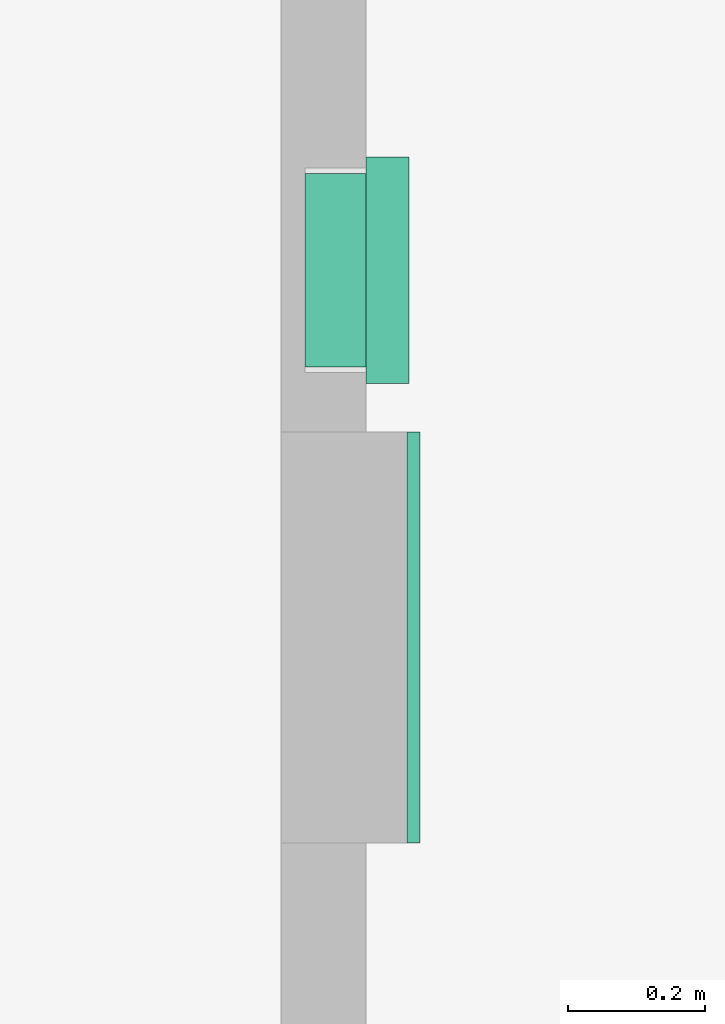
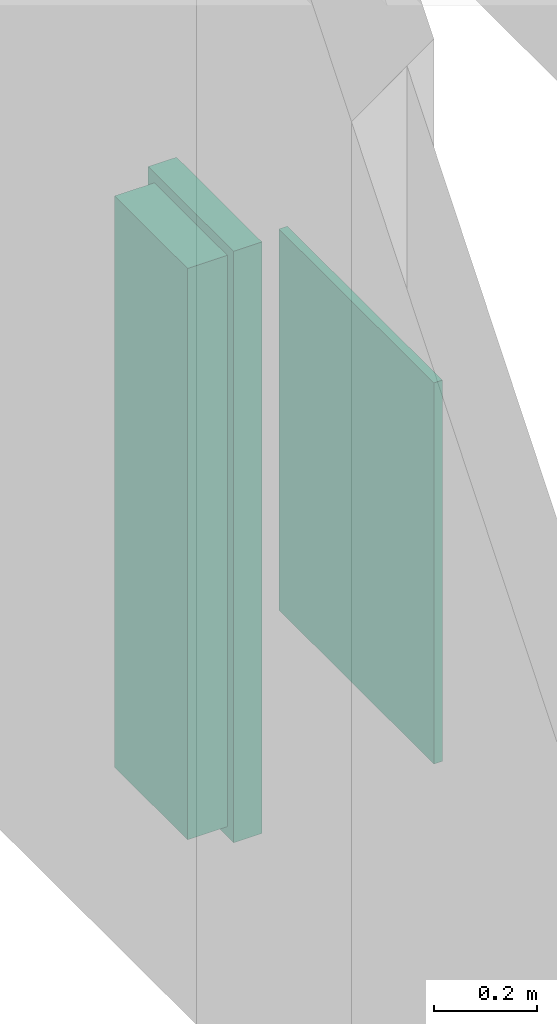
# One storey, part 32 of 45: 2 flow terminals.
"""IFC2X3 building model written with IfcOpenShell, lengths in metres."""

from ifc_helpers import new_model, entity, si_unit, converted_unit, frame, origin, origin_2d_with_axis, place, context, project, spatial, rectangle, extrude, face_set, surface_model, source, transform, mapped, type_object, type_shapes, element, save


model = new_model("IFC2X3")

# Units and contexts
model_context = context("Model", 3, precision=1e-09, world=origin())
plan_context = context("Plan", 3, precision=1e-09, world=origin())
ifc_project = project(units=[si_unit("LENGTHUNIT", "METRE"), si_unit("AREAUNIT", "SQUARE_METRE"), si_unit("VOLUMEUNIT", "CUBIC_METRE"), converted_unit("PLANEANGLEUNIT", "DEGREE", entity("IfcRatioMeasure", 0.01745329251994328), si_unit("PLANEANGLEUNIT", "RADIAN"), dimensions=[0, 0, 0, 0, 0, 0, 0]), si_unit("TIMEUNIT", "SECOND")], contexts=[model_context, plan_context])

# Site, building, storey, space
site_placement = place(None, origin())
site = spatial("IfcSite", under=ifc_project, at=site_placement, Name="Default", CompositionType="ELEMENT")
building_placement = place(site_placement, origin())
building = spatial("IfcBuilding", under=site, at=building_placement, CompositionType="ELEMENT")
storey_placement = place(building_placement, frame((0.0, 0.0, 4.570000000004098)))
storey = spatial("IfcBuildingStorey", under=building, at=storey_placement, Name="Second Floor", CompositionType="ELEMENT", Elevation=4.570000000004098)
space_placement = place(storey_placement, origin())
space = spatial("IfcSpace", under=storey, at=space_placement, Name="2C08", CompositionType="ELEMENT", InteriorOrExteriorSpace="INTERNAL")

# Flow terminals
sanitary_terminal_type_1 = type_object("IfcSanitaryTerminalType", Name="Semi-Recessed", PredefinedType="NOTDEFINED")
shared_shape_1 = source(origin(), model_context, "Body", "SurfaceModel", [
    surface_model("IfcFaceBasedSurfaceModel", [(0.3047999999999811, 1.371600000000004, 0.006350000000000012), (0.02539999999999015, 1.371600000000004, 0.006350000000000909), (0.02539999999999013, 0.02540000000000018, 0.006350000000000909), (0.3047999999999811, 0.02540000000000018, 0.006350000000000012), (0.3047999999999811, 1.371600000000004, 0.0), (0.02539999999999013, 1.371600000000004, 0.0), (0.02539999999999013, 0.02540000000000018, 0.0), (0.3047999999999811, 0.02540000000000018, 0.0), (0.3047999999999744, 0.8683625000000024, 0.0314087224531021), (0.304799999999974, 0.8683625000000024, 0.0), (0.304799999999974, 1.371600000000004, 0.0), (0.3047999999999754, 1.371600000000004, 0.1396999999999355), (0.3047999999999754, 0.9274310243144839, 0.139699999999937), (0.3047999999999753, 0.9028355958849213, 0.1191121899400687), (0.304799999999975, 0.8840898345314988, 0.09308548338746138), (0.3047999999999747, 0.8723562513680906, 0.06323391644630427), (0.02539999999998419, 0.8683625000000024, 0.03140872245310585), (0.02539999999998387, 0.8683625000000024, 0.0), (0.02539999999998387, 1.371600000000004, 0.0), (0.02539999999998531, 1.371600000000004, 0.1396999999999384), (0.02539999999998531, 0.9274310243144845, 0.1396999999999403), (0.02539999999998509, 0.9028355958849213, 0.1191121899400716), (0.02539999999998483, 0.8840898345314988, 0.09308548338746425), (0.02539999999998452, 0.8723562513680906, 0.06323391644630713), (0.1650999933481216, 0.8971245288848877, 0.1125374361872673), (0.244423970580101, 0.8850007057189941, 0.0947267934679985), (0.3048000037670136, 0.8934627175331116, 0.1060988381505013), (0.225727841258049, 0.8897196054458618, 0.1024402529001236), (0.1240624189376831, 0.8936511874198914, 0.1080563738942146), (0.1443802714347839, 0.89626145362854, 0.1114614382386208), (0.02539999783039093, 0.8934627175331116, 0.1060988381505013), (0.2975995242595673, 0.8728225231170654, 0.06500939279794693), (0.2961554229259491, 0.8724397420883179, 0.06352298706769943), (0.08576729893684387, 0.8849983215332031, 0.09472260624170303), (0.05923719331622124, 0.8781034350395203, 0.0805450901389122), (0.06810294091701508, 0.8800443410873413, 0.08500713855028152), (0.02539999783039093, 0.8811564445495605, 0.08562259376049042), (0.03954862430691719, 0.8766331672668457, 0.07681932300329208), (0.04958875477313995, 0.8769928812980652, 0.07776296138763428), (0.02539999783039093, 0.8782230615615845, 0.07815969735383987), (0.03264534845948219, 0.875198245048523, 0.07281118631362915), (0.02539999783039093, 0.8767563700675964, 0.0744282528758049), (0.02539999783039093, 0.87602299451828, 0.07256253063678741), (0.2946777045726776, 0.8762261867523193, 0.07572414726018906), (0.3048000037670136, 0.8767563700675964, 0.0744282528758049), (0.3048000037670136, 0.8774896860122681, 0.07629397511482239), (0.2906513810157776, 0.8717893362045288, 0.0609215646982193), (0.3048000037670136, 0.871357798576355, 0.05527761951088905), (0.3048000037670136, 0.8718570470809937, 0.05925576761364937), (0.02539999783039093, 0.874556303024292, 0.06883108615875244), (0.03170676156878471, 0.8735430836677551, 0.0675705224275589), (0.03171554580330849, 0.8739543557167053, 0.06892137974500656), (0.104461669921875, 0.889717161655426, 0.1024366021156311), (0.02539999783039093, 0.8752896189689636, 0.07069680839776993), (0.03172433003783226, 0.8743656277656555, 0.07027223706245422), (0.03218483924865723, 0.8747819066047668, 0.07154171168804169), (0.185808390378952, 0.8962624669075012, 0.1114626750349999), (0.3048000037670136, 0.8703593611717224, 0.04732131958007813), (0.2280749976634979, 0.8709259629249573, 0.05697767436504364), (0.2061262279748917, 0.8936530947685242, 0.1080589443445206), (0.3048000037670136, 0.8752896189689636, 0.07069680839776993), (0.297547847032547, 0.8752022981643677, 0.07282306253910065), (0.2980738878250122, 0.8745774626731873, 0.0708826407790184), (0.2985999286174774, 0.8739525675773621, 0.06894221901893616), (0.3048000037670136, 0.874556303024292, 0.06883108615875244), (0.2709419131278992, 0.8781068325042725, 0.08055329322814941), (0.3048000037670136, 0.8811564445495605, 0.08562259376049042), (0.2620970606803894, 0.8800443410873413, 0.08500713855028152), (0.2805894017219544, 0.8769944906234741, 0.07776710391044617), (0.3048000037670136, 0.8782230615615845, 0.07815969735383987), (0.03435983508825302, 0.8722586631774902, 0.06284872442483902), (0.02539999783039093, 0.872106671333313, 0.06124484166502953), (0.0367727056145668, 0.8719081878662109, 0.06142202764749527), (0.2906513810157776, 0.8766331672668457, 0.07681932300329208), (0.02539999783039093, 0.8718570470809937, 0.05925576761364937), (0.3048000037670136, 0.8738229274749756, 0.06696536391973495), (0.2980997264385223, 0.8733875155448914, 0.06697580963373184), (0.3048000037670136, 0.872106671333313, 0.06124484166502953), (0.2947112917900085, 0.8720570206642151, 0.06203658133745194), (0.02539999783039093, 0.8738229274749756, 0.06696536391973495), (0.3048000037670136, 0.873089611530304, 0.06509964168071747), (0.02539999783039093, 0.8774896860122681, 0.07629397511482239), (0.03438528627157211, 0.8759323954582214, 0.07491400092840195), (0.03677724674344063, 0.8764464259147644, 0.07632055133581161), (0.03261014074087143, 0.8728178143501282, 0.0649920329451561), (0.02539999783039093, 0.8703593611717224, 0.04732131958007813), (0.1650999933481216, 0.8683624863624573, 0.03140872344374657), (0.03954862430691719, 0.8717893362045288, 0.0609215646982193), (0.1021250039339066, 0.8709259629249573, 0.05697767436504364), (0.02539999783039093, 0.871357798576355, 0.05527761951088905), (0.02539999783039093, 0.873089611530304, 0.06509964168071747), (0.2961127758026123, 0.8757142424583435, 0.07427360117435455), (0.3048000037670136, 0.87602299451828, 0.07256253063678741), (0.1650999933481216, 0.8701865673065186, 0.05300865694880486), (0.03954862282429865, 0.9617593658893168, 0.06092156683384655), (0.1650999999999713, 0.9617593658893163, 0.05300865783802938), (0.2906513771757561, 0.9617593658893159, 0.06092156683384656), (0.2927086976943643, 0.9617593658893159, 0.06119241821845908), (0.2946258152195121, 0.9617593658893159, 0.06198651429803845), (0.2962720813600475, 0.9617593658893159, 0.06324973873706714), (0.2975353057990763, 0.9617593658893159, 0.06489600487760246), (0.2983294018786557, 0.9617593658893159, 0.06681312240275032), (0.2986002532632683, 0.9617593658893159, 0.06887044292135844), (0.2983294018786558, 0.9617593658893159, 0.07092776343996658), (0.2975353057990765, 0.9617593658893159, 0.0728448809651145), (0.2962720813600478, 0.9617593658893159, 0.07449114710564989), (0.2946258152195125, 0.9617593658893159, 0.07575437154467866), (0.2927086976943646, 0.9617593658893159, 0.07654846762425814), (0.2906513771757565, 0.9617593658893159, 0.07681931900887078), (0.2806776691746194, 0.9617593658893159, 0.07775040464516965), (0.2710486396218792, 0.9617593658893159, 0.0805114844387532), (0.2620970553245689, 0.9617593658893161, 0.0850071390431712), (0.2316919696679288, 0.9617593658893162, 0.1002429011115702), (0.1989754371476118, 0.9617593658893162, 0.1095287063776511), (0.1651000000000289, 0.9617593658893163, 0.1125374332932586), (0.1312245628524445, 0.9617593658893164, 0.109528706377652), (0.09850803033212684, 0.9617593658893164, 0.1002429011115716), (0.06810294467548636, 0.9617593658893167, 0.08500713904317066), (0.05915136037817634, 0.9617593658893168, 0.08051148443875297), (0.04952233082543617, 0.9617593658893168, 0.07775040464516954), (0.03954862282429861, 0.9617593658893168, 0.07681931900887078), (0.03749130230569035, 0.9617593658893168, 0.0765484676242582), (0.03557418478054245, 0.9617593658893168, 0.07575437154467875), (0.03392791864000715, 0.9617593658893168, 0.07449114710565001), (0.03266469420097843, 0.9617593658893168, 0.07284488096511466), (0.03187059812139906, 0.9617593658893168, 0.07092776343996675), (0.03159974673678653, 0.9617593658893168, 0.06887044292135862), (0.03187059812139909, 0.9617593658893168, 0.06681312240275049), (0.03266469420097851, 0.9617593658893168, 0.0648960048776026), (0.03392791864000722, 0.9617593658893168, 0.06324973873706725), (0.03557418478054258, 0.9617593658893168, 0.06198651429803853), (0.03749130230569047, 0.9617593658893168, 0.06119241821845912), (0.3302000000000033, 1.397000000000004, 0.1523999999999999), (0.0, 1.397000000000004, 0.152400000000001), (0.0, 0.0, 0.152400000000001), (0.3302000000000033, 0.0, 0.1523999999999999), (0.03175000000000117, 0.7016793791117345, 0.1524000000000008), (0.03175000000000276, 0.8960819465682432, 0.1524000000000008), (0.03192255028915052, 0.8975521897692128, 0.1524000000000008), (0.03243082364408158, 0.8989425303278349, 0.1524000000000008), (0.03324719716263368, 0.9001774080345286, 0.1524000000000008), (0.03432730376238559, 0.9011897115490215, 0.1524000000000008), (0.03561244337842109, 0.9019244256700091, 0.1524000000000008), (0.03703277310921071, 0.9023416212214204, 0.1524000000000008), (0.1222300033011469, 0.9119737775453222, 0.1524000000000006), (0.2079699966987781, 0.911973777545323, 0.1524000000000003), (0.2931672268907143, 0.902341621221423, 0.1524), (0.2945875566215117, 0.9019244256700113, 0.1524), (0.2958726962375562, 0.9011897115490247, 0.1524), (0.2969528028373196, 0.9001774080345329, 0.1524), (0.297769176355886, 0.8989425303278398, 0.1524), (0.2982774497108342, 0.8975521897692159, 0.1524), (0.2984500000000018, 0.8960819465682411, 0.1524), (0.2984500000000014, 0.7016793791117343, 0.1524), (0.2982774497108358, 0.7002091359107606, 0.1524), (0.2977691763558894, 0.6988187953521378, 0.1524), (0.2969528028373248, 0.697583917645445, 0.1524), (0.2958726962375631, 0.6965716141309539, 0.1524), (0.29458755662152, 0.6958369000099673, 0.1524), (0.2931672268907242, 0.6954197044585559, 0.1524), (0.2079699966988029, 0.6857875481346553, 0.1524000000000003), (0.1222300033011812, 0.6857875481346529, 0.1524000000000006), (0.03703277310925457, 0.6954197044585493, 0.1524000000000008), (0.03561244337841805, 0.6958369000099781, 0.1524000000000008), (0.0343273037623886, 0.6965716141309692, 0.1524000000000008), (0.03324719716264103, 0.6975839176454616, 0.1524000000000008), (0.03243082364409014, 0.698818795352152, 0.1524000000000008), (0.03192255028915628, 0.7002091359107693, 0.1524000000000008), (0.3063874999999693, 1.373187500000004, 0.0), (0.02381249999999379, 1.373187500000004, 0.0), (0.02381249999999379, 0.02381250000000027, 0.0), (0.3063874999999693, 0.02381250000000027, 0.0), (0.3047999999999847, 1.371600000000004, 0.0), (0.3047999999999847, 0.02540000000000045, 0.0), (0.02539999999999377, 0.02540000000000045, 0.0), (0.02539999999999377, 1.371600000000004, 0.0), (0.304799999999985, 1.371600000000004, 0.08889999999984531), (0.3047999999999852, 1.371600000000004, 0.1396999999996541), (0.3047999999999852, 0.02540000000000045, 0.1396999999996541), (0.304799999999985, 0.02540000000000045, 0.08889999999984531), (0.02539999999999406, 0.02540000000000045, 0.08889999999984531), (0.02539999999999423, 0.02540000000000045, 0.139699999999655), (0.02539999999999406, 1.371600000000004, 0.08889999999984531), (0.02539999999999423, 1.371600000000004, 0.139699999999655), (0.02381249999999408, 1.373187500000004, 0.08889999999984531), (0.3063874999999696, 1.373187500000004, 0.08889999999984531), (0.02381249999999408, 0.02381250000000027, 0.08889999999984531), (0.3063874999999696, 0.02381250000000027, 0.08889999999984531), (0.3302000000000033, 1.397000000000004, 0.08889999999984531), (0.0, 1.397000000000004, 0.08889999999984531), (0.0, 0.0, 0.08889999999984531), (0.3302000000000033, 0.0, 0.08889999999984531), (0.3302000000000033, 1.397000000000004, 0.1396999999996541), (0.0, 1.397000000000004, 0.1396999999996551), (0.0, 0.0, 0.1396999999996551), (0.3302000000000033, 0.0, 0.1396999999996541), (0.0317500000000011, 0.7016793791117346, 0.139699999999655), (0.03175000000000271, 0.8960819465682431, 0.139699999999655), (0.03192255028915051, 0.8975521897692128, 0.139699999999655), (0.03243082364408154, 0.8989425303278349, 0.139699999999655), (0.03324719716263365, 0.9001774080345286, 0.139699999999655), (0.03432730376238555, 0.9011897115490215, 0.139699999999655), (0.03561244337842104, 0.9019244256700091, 0.139699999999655), (0.03703277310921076, 0.9023416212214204, 0.139699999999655), (0.1222300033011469, 0.9119737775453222, 0.1396999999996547), (0.207969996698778, 0.911973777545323, 0.1396999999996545), (0.2931672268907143, 0.902341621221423, 0.1396999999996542), (0.2945875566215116, 0.9019244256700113, 0.1396999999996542), (0.2958726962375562, 0.9011897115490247, 0.1396999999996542), (0.2969528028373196, 0.9001774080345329, 0.1396999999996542), (0.2977691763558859, 0.8989425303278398, 0.1396999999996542), (0.2982774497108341, 0.8975521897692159, 0.1396999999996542), (0.2984500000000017, 0.8960819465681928, 0.1396999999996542), (0.2984500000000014, 0.7016793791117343, 0.1396999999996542), (0.2982774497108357, 0.7002091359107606, 0.1396999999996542), (0.2977691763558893, 0.6988187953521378, 0.1396999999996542), (0.2969528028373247, 0.697583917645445, 0.1396999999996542), (0.295872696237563, 0.6965716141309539, 0.1396999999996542), (0.29458755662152, 0.6958369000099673, 0.1396999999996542), (0.2931672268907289, 0.6954197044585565, 0.1396999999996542), (0.2079699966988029, 0.6857875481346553, 0.1396999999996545), (0.1222300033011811, 0.6857875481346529, 0.1396999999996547), (0.0370327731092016, 0.6954197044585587, 0.139699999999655), (0.03561244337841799, 0.6958369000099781, 0.139699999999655), (0.03432730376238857, 0.6965716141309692, 0.139699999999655), (0.03324719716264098, 0.6975839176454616, 0.139699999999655), (0.03243082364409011, 0.698818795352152, 0.139699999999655), (0.03192255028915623, 0.7002091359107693, 0.139699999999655), (0.02698749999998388, 0.6774923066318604, 0.1206361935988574), (0.02698749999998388, 0.6858000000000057, 0.1206361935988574), (0.02698749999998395, 0.6858000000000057, 0.1397000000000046), (0.02698749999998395, 0.0253999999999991, 0.1397000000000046), (0.02698749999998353, 0.0253999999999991, 0.007937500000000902), (0.02698749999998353, 0.7076898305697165, 0.007937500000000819), (0.3032124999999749, 0.6774923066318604, 0.1206361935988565), (0.3032124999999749, 0.6858000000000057, 0.1206361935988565), (0.3032124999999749, 0.6858000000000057, 0.1397000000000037), (0.3032124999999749, 0.0253999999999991, 0.1397000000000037), (0.3032124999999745, 0.0253999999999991, 0.007937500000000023), (0.3032124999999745, 0.7076898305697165, 0.007937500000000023)], [face_set([[[0, 1, 2, 3]], [[4, 5, 6, 7]], [[1, 0, 4, 5]], [[2, 6, 5, 1]], [[3, 7, 6, 2]], [[0, 3, 7, 4]]]), face_set([[[8, 9, 10, 11, 12, 13, 14, 15]], [[16, 17, 18, 19, 20, 21, 22, 23]], [[9, 8, 16, 17]], [[10, 18, 17, 9]], [[11, 19, 18, 10]], [[12, 11, 19, 20]], [[24, 20, 21]], [[25, 26, 27]], [[28, 29, 21]], [[28, 21, 30]], [[15, 31, 32]], [[22, 33, 30]], [[24, 21, 29]], [[34, 35, 36]], [[37, 38, 39]], [[40, 41, 42]], [[39, 38, 34]], [[22, 35, 33]], [[39, 34, 36]], [[43, 44, 45]], [[46, 47, 48]], [[49, 50, 51]], [[33, 52, 30]], [[53, 54, 55]], [[24, 56, 13]], [[57, 47, 58]], [[24, 13, 12]], [[13, 56, 59]], [[59, 27, 26]], [[60, 61, 62]], [[62, 63, 64]], [[24, 12, 20]], [[55, 42, 53]], [[65, 66, 67]], [[25, 67, 14]], [[25, 14, 26]], [[65, 68, 69]], [[66, 65, 69]], [[70, 71, 72]], [[69, 68, 73]], [[72, 71, 74]], [[26, 13, 59]], [[54, 53, 49]], [[64, 60, 62]], [[75, 63, 76]], [[46, 77, 78]], [[79, 50, 49]], [[80, 76, 31]], [[39, 81, 37]], [[41, 82, 81]], [[49, 51, 54]], [[81, 82, 83]], [[40, 82, 41]], [[70, 84, 23]], [[84, 50, 79]], [[85, 16, 86]], [[28, 30, 52]], [[70, 23, 71]], [[87, 72, 74]], [[85, 88, 89]], [[87, 89, 88]], [[74, 89, 87]], [[84, 90, 23]], [[58, 47, 46]], [[35, 22, 36]], [[63, 75, 64]], [[91, 61, 92]], [[45, 73, 43]], [[80, 75, 76]], [[61, 60, 92]], [[15, 32, 78]], [[45, 69, 73]], [[92, 44, 91]], [[66, 14, 67]], [[84, 79, 90]], [[85, 93, 88]], [[86, 57, 93]], [[31, 15, 80]], [[77, 15, 78]], [[42, 55, 40]], [[58, 93, 57]], [[77, 46, 48]], [[8, 57, 86]], [[37, 81, 83]], [[44, 43, 91]], [[85, 86, 93]], [[94, 95, 96, 97, 98, 99, 100, 101, 102, 103, 104, 105, 106, 107, 108, 109, 110, 111, 112, 113, 114, 115, 116, 117, 118, 119, 120, 121, 122, 123, 124, 125, 126, 127, 128, 129, 130, 131]], [[95, 94, 87, 88, 93]], [[96, 95, 93, 58, 46]], [[46, 96, 97]], [[78, 98, 99]], [[97, 98, 78]], [[99, 100, 31]], [[46, 97, 78]], [[63, 31, 101]], [[31, 78, 99]], [[63, 101, 102]], [[101, 31, 100]], [[61, 104, 105]], [[43, 106, 107]], [[105, 106, 43]], [[73, 107, 108]], [[63, 103, 61]], [[103, 63, 102]], [[61, 103, 104]], [[61, 105, 43]], [[107, 73, 43]], [[108, 68, 73]], [[68, 108, 109]], [[109, 65, 68]], [[110, 67, 65]], [[67, 110, 111]], [[109, 110, 65]], [[111, 112, 25]], [[25, 67, 111]], [[27, 25, 112]], [[112, 59, 27]], [[113, 114, 56]], [[56, 59, 113]], [[24, 56, 114]], [[113, 59, 112]], [[114, 115, 29]], [[29, 24, 114]], [[28, 29, 115]], [[115, 116, 28]], [[116, 117, 33]], [[33, 52, 116]], [[35, 33, 117]], [[116, 52, 28]], [[118, 34, 35]], [[35, 117, 118]], [[118, 119, 34]], [[120, 37, 38]], [[38, 119, 120]], [[34, 119, 38]], [[37, 120, 121]], [[82, 122, 123]], [[121, 122, 83]], [[123, 124, 40]], [[37, 121, 83]], [[83, 122, 82]], [[40, 125, 54]], [[40, 82, 123]], [[54, 125, 126]], [[40, 124, 125]], [[84, 127, 128]], [[129, 84, 128]], [[72, 130, 131]], [[129, 130, 70]], [[87, 131, 94]], [[127, 50, 126]], [[127, 84, 50]], [[126, 50, 54]], [[70, 84, 129]], [[130, 72, 70]], [[131, 87, 72]]]), face_set([[[132, 133, 134, 135], [136, 137, 138, 139, 140, 141, 142, 143, 144, 145, 146, 147, 148, 149, 150, 151, 152, 153, 154, 155, 156, 157, 158, 159, 160, 161, 162, 163, 164, 165, 166, 167]], [[168, 169, 170, 171], [172, 173, 174, 175]], [[172, 176, 177, 178, 179, 173]], [[173, 174, 180, 181, 178, 179]], [[174, 175, 182, 183, 181, 180]], [[175, 182, 183, 177, 176, 172]], [[168, 169, 184, 185]], [[169, 184, 186, 170]], [[170, 186, 187, 171]], [[171, 168, 185, 187]], [[188, 189, 190, 191], [185, 187, 186, 184]], [[133, 132, 192, 188, 189, 193]], [[134, 133, 193, 189, 190, 194]], [[135, 134, 194, 190, 191, 195]], [[132, 135, 195, 191, 188, 192]], [[177, 183, 181, 178], [196, 197, 198, 199, 200, 201, 202, 203, 204, 205, 206, 207, 208, 209, 210, 211, 212, 213, 214, 215, 216, 217, 218, 219, 220, 221, 222, 223, 224, 225, 226, 227]], [[137, 136, 196, 197]], [[198, 197, 137, 138]], [[199, 198, 138, 139]], [[139, 140, 200, 199]], [[202, 201, 141, 142]], [[203, 202, 142, 143]], [[140, 141, 201, 200]], [[203, 143, 144, 204]], [[145, 205, 204, 144]], [[205, 145, 146, 206]], [[207, 206, 146, 147]], [[208, 207, 147, 148]], [[148, 149, 209, 208]], [[212, 211, 151, 152]], [[211, 210, 150, 151]], [[149, 150, 210, 209]], [[153, 213, 212, 152]], [[214, 213, 153, 154]], [[215, 214, 154, 155]], [[155, 156, 216, 215]], [[218, 217, 157, 158]], [[219, 218, 158, 159]], [[156, 157, 217, 216]], [[219, 159, 160, 220]], [[161, 221, 220, 160]], [[221, 161, 162, 222]], [[223, 222, 162, 163]], [[224, 223, 163, 164]], [[164, 165, 225, 224]], [[227, 226, 166, 167]], [[196, 227, 167, 136]], [[165, 166, 226, 225]]]), face_set([[[228, 229, 230, 231, 232, 233]], [[234, 235, 236, 237, 238, 239]], [[233, 228, 234, 239]], [[232, 238, 239, 233]], [[231, 237, 238, 232]], [[230, 231, 237, 236]], [[229, 230, 236, 235]], [[228, 234, 235, 229]]])]),
])
type_shapes(sanitary_terminal_type_1, [shared_shape_1])
flow_terminal_1_placement = place(space_placement, frame((-31.57490000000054, 41.06654685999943, 0.3428999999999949), z_axis=(1.0, 0.0, 0.0), x_axis=(0.0, 1.0, 0.0)))
element("IfcFlowTerminal", 1, at=flow_terminal_1_placement, inside=space, type_object=sanitary_terminal_type_1, Name="M_Towel Dispensers - receptical:Semi-Recessed:Semi-Recessed", ObjectType="Semi-Recessed", context=model_context, shape_type="MappedRepresentation", body=[
    mapped(shared_shape_1, transform((0.0, 0.0, 0.0), scale=1.0)),
])
sanitary_terminal_type_2 = type_object("IfcSanitaryTerminalType", Name="Mirror 600mm x 900mm", PredefinedType="NOTDEFINED")
shared_shape_2 = source(origin(), model_context, "Body", "SweptSolid", [
    extrude(rectangle(XDim=0.01905, YDim=0.5999999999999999, at=origin_2d_with_axis()), frame((0.02447030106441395, 0.101525, 1.0), z_axis=(0.0, 0.0, 1.0), x_axis=(0.0, -1.0, 0.0)), (0.0, 0.0, 1.0), 0.8999999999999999),
])
type_shapes(sanitary_terminal_type_2, [shared_shape_2])
flow_terminal_2_placement = place(space_placement, frame((-31.5180000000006, 40.71984950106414, -0.08499999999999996), z_axis=(0.0, 0.0, 1.0), x_axis=(0.0, -1.0, 0.0)))
element("IfcFlowTerminal", 2, at=flow_terminal_2_placement, inside=space, type_object=sanitary_terminal_type_2, Name="M_Mirror:Mirror 600mm x 900mm:Mirror 600mm x 900mm", ObjectType="Mirror 600mm x 900mm", context=model_context, shape_type="MappedRepresentation", body=[
    mapped(shared_shape_2, transform((0.0, 0.0, 0.0), scale=1.0)),
])

save(model, "model.ifc")
